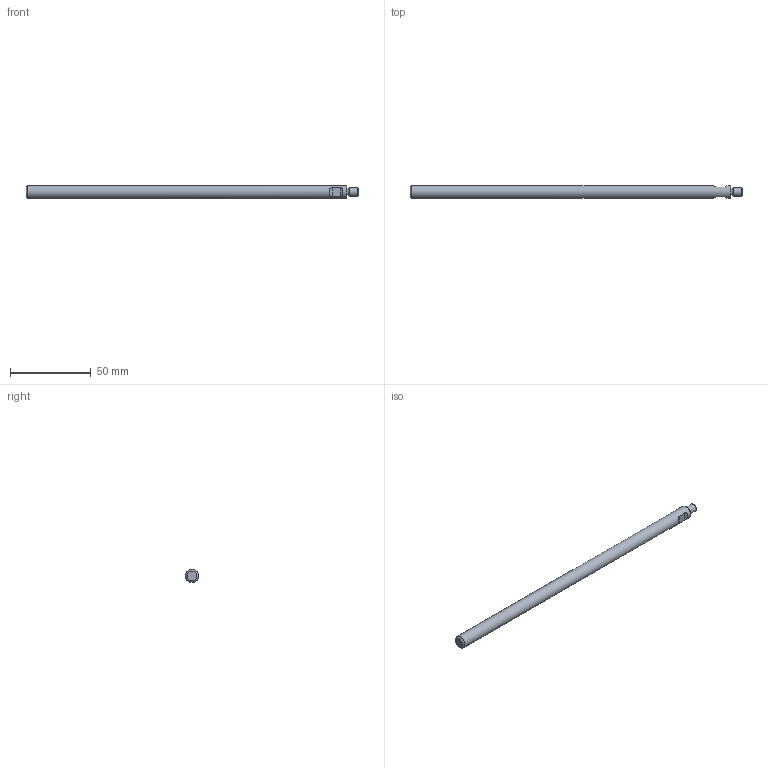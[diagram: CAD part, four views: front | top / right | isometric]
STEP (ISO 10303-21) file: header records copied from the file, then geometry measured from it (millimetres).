
FILE_DESCRIPTION( ( 'STEP AP203' ), ' ' );
FILE_NAME( 'p:/temp/worker_650/2948_3132/app_46_02016062011314340308677192d056f_000000_00_00_000000/format_1/E43351.stp', '2016-06-20T09:31:48', ( '' ), ( '' ), ' ', 'PARTsolutions', ' ' );
FILE_SCHEMA( ( 'CONFIG_CONTROL_DESIGN' ) );
Length unit declared in the file: millimetre
Products named in the file (1): _E43351
Bounding box: 205 x 8 x 8 mm (x, y, z)
Volume: 10016.7 mm3; surface area: 5169.5 mm2
Topology: 1 solids, 1 shells, 15 faces, 26 edges, 16 vertices
Faces by surface type: cylinder 7, plane 5, cone 3
Full cylindrical faces by diameter (mm): 4.1 x1, 5 x1, 8 x1
Entity records: 470 total; most frequent: CARTESIAN_POINT 160, DIRECTION 56, ORIENTED_EDGE 40, AXIS2_PLACEMENT_3D 24, EDGE_LOOP 24, EDGE_CURVE 20, FACE_OUTER_BOUND 18, VERTEX_POINT 16
